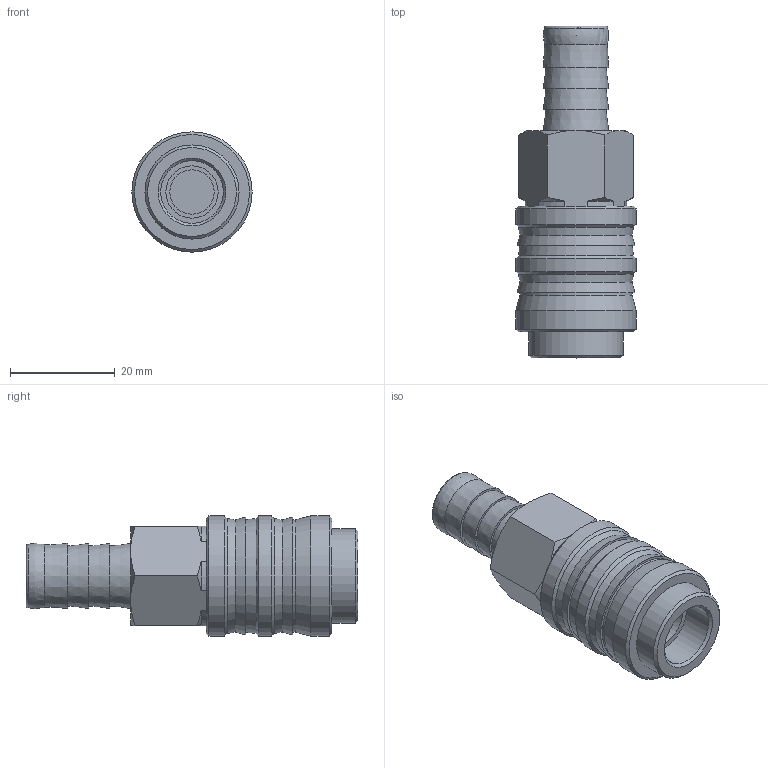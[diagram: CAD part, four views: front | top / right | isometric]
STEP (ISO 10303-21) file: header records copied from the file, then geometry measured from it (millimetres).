
FILE_DESCRIPTION(/* description */ (''),/* implementation_level */ '2;1');
FILE_NAME(/* name */ 'S:\_Tecnico\ArchivioUT\_Disegni3D ingombri\DISEGNI 3D per ingombri\GD\GD400012.stp',/* time_stamp */ '2019-11-26T09:17:57+01:00',/* author */ ('UfficioTecnico'),/* organization */ (''),/* preprocessor_version */ 'ST-DEVELOPER v18',/* originating_system */ 'Autodesk Inventor 2020',/* authorisation */ '');
FILE_SCHEMA (('AUTOMOTIVE_DESIGN { 1 0 10303 214 3 1 1 }'));
Length unit declared in the file: millimetre
Products named in the file (1): GD400012
Bounding box: 23 x 63.5 x 23 mm (x, y, z)
Volume: 13098.4 mm3; surface area: 6470.7 mm2
Topology: 1 solids, 1 shells, 66 faces, 172 edges, 120 vertices
Faces by surface type: cone 29, plane 20, cylinder 15, torus 1, sphere 1
Full cylindrical faces by diameter (mm): 8.5 x1, 9.5 x1, 10 x1, 12 x1, 18 x1, 21.5 x1, 23 x3
Entity records: 2107 total; most frequent: CARTESIAN_POINT 405, DIRECTION 376, ORIENTED_EDGE 340, EDGE_CURVE 170, AXIS2_PLACEMENT_3D 163, VERTEX_POINT 120, CIRCLE 96, EDGE_LOOP 80
